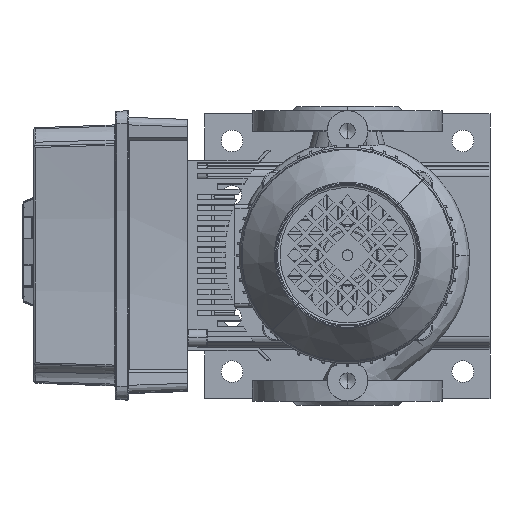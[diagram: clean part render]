
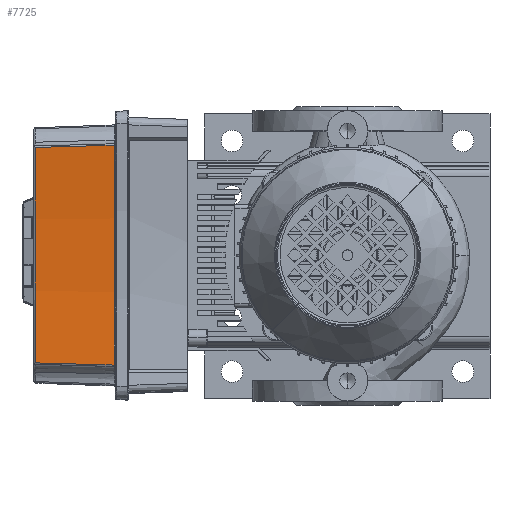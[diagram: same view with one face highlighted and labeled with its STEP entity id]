
A CAD part, top view. The second image highlights one B-rep face of the part: STEP entity #7725.
In plain terms, the highlighted conical face has half-angle 2 degrees and reference radius 845 mm.
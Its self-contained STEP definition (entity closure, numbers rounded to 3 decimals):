
#7725=ADVANCED_FACE('',(#15729),#15730,.F.);
#15729=FACE_OUTER_BOUND('',#38083,.T.);
#15730=CONICAL_SURFACE('',#38084,845.0,0.035);
#38083=EDGE_LOOP('',(#60554,#60555,#60556,#60557));
#38084=AXIS2_PLACEMENT_3D('',#60558,#60559,#60560);
#60554=ORIENTED_EDGE('',*,*,#105944,.F.);
#60555=ORIENTED_EDGE('',*,*,#105999,.F.);
#60556=ORIENTED_EDGE('',*,*,#105960,.F.);
#60557=ORIENTED_EDGE('',*,*,#105988,.F.);
#60558=CARTESIAN_POINT('',(-110.0,1132.065,60.0));
#60559=DIRECTION('',(0.,-0.0,-1.0));
#60560=DIRECTION('',(1.0,0.0,0.));
#105944=EDGE_CURVE('',#137679,#137685,#137686,.T.);
#105960=EDGE_CURVE('',#137706,#137698,#137708,.T.);
#105988=EDGE_CURVE('',#137685,#137706,#137738,.T.);
#105999=EDGE_CURVE('',#137698,#137679,#137750,.T.);
#137679=VERTEX_POINT('',#166178);
#137685=VERTEX_POINT('',#166220);
#137686=B_SPLINE_CURVE_WITH_KNOTS('',3,(#166221,#166222,#166223,#166224,#166225,#166226,#166227,#166228,#166229,#166230,#166231,#166232,#166233,#166234,#166235,#166236,#166237,#166238,#166239,#166240,#166241,#166242,#166243,#166244,#166245),.UNSPECIFIED.,.F.,.F.,(4,3,3,3,3,3,3,3,4),(-60.14,-51.629,-41.43,-35.057,-31.073,-27.089,-20.715,-10.517,-2.006),.UNSPECIFIED.);
#137698=VERTEX_POINT('',#166334);
#137706=VERTEX_POINT('',#166395);
#137708=B_SPLINE_CURVE_WITH_KNOTS('',3,(#166410,#166411,#166412,#166413,#166414,#166415,#166416,#166417,#166418,#166419,#166420,#166421,#166422,#166423,#166424,#166425,#166426,#166427,#166428,#166429,#166430,#166431,#166432,#166433,#166434),.UNSPECIFIED.,.F.,.F.,(4,3,3,3,3,3,3,3,4),(2.006,10.517,20.716,27.09,31.073,35.057,41.431,51.63,60.14),.UNSPECIFIED.);
#137738=CIRCLE('',#166625,847.062);
#137750=CIRCLE('',#166653,845.034);
#166178=CARTESIAN_POINT('',(-190.987,290.921,59.035));
#166220=CARTESIAN_POINT('',(-189.365,288.73,0.965));
#166221=CARTESIAN_POINT('',(-190.987,290.921,59.035));
#166222=CARTESIAN_POINT('',(-190.902,290.814,56.201));
#166223=CARTESIAN_POINT('',(-190.819,290.706,53.368));
#166224=CARTESIAN_POINT('',(-190.736,290.599,50.534));
#166225=CARTESIAN_POINT('',(-190.637,290.47,47.138));
#166226=CARTESIAN_POINT('',(-190.539,290.342,43.743));
#166227=CARTESIAN_POINT('',(-190.442,290.214,40.347));
#166228=CARTESIAN_POINT('',(-190.381,290.133,38.225));
#166229=CARTESIAN_POINT('',(-190.321,290.053,36.103));
#166230=CARTESIAN_POINT('',(-190.261,289.973,33.98));
#166231=CARTESIAN_POINT('',(-190.224,289.923,32.654));
#166232=CARTESIAN_POINT('',(-190.187,289.873,31.327));
#166233=CARTESIAN_POINT('',(-190.15,289.823,30.001));
#166234=CARTESIAN_POINT('',(-190.113,289.773,28.675));
#166235=CARTESIAN_POINT('',(-190.076,289.723,27.348));
#166236=CARTESIAN_POINT('',(-190.04,289.673,26.022));
#166237=CARTESIAN_POINT('',(-189.981,289.593,23.899));
#166238=CARTESIAN_POINT('',(-189.923,289.513,21.777));
#166239=CARTESIAN_POINT('',(-189.865,289.433,19.655));
#166240=CARTESIAN_POINT('',(-189.772,289.305,16.259));
#166241=CARTESIAN_POINT('',(-189.681,289.177,12.863));
#166242=CARTESIAN_POINT('',(-189.59,289.049,9.467));
#166243=CARTESIAN_POINT('',(-189.515,288.943,6.633));
#166244=CARTESIAN_POINT('',(-189.44,288.836,3.799));
#166245=CARTESIAN_POINT('',(-189.365,288.73,0.965));
#166334=CARTESIAN_POINT('',(-29.013,290.921,59.035));
#166395=CARTESIAN_POINT('',(-30.635,288.73,0.965));
#166410=CARTESIAN_POINT('',(-30.635,288.73,0.965));
#166411=CARTESIAN_POINT('',(-30.56,288.836,3.799));
#166412=CARTESIAN_POINT('',(-30.485,288.943,6.633));
#166413=CARTESIAN_POINT('',(-30.41,289.049,9.467));
#166414=CARTESIAN_POINT('',(-30.319,289.177,12.863));
#166415=CARTESIAN_POINT('',(-30.228,289.305,16.259));
#166416=CARTESIAN_POINT('',(-30.135,289.433,19.654));
#166417=CARTESIAN_POINT('',(-30.077,289.513,21.777));
#166418=CARTESIAN_POINT('',(-30.019,289.593,23.899));
#166419=CARTESIAN_POINT('',(-29.96,289.673,26.022));
#166420=CARTESIAN_POINT('',(-29.924,289.723,27.348));
#166421=CARTESIAN_POINT('',(-29.887,289.773,28.674));
#166422=CARTESIAN_POINT('',(-29.85,289.823,30.001));
#166423=CARTESIAN_POINT('',(-29.813,289.873,31.327));
#166424=CARTESIAN_POINT('',(-29.776,289.923,32.654));
#166425=CARTESIAN_POINT('',(-29.739,289.973,33.98));
#166426=CARTESIAN_POINT('',(-29.679,290.053,36.103));
#166427=CARTESIAN_POINT('',(-29.619,290.133,38.225));
#166428=CARTESIAN_POINT('',(-29.558,290.214,40.347));
#166429=CARTESIAN_POINT('',(-29.461,290.342,43.743));
#166430=CARTESIAN_POINT('',(-29.363,290.47,47.139));
#166431=CARTESIAN_POINT('',(-29.264,290.599,50.534));
#166432=CARTESIAN_POINT('',(-29.181,290.706,53.368));
#166433=CARTESIAN_POINT('',(-29.098,290.814,56.201));
#166434=CARTESIAN_POINT('',(-29.013,290.921,59.035));
#166625=AXIS2_PLACEMENT_3D('',#197659,#197660,#197661);
#166653=AXIS2_PLACEMENT_3D('',#197671,#197672,#197673);
#197659=CARTESIAN_POINT('',(-110.0,1132.065,0.965));
#197660=DIRECTION('',(0.,0.,1.0));
#197661=DIRECTION('',(0.0,-1.0,0.));
#197671=CARTESIAN_POINT('',(-110.0,1132.065,59.035));
#197672=DIRECTION('',(-0.0,-0.0,-1.0));
#197673=DIRECTION('',(0.0,-1.0,0.0));
